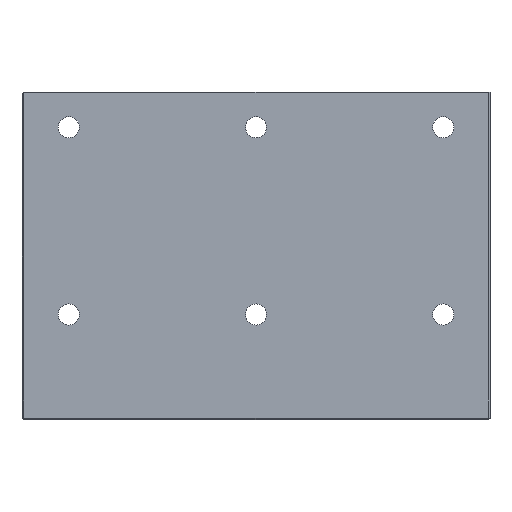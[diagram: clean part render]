
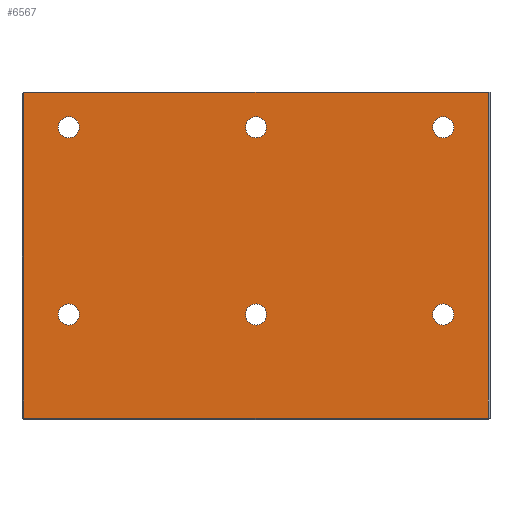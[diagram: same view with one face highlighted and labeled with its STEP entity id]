
A CAD part, front view. The second image highlights one B-rep face of the part: STEP entity #6567.
In plain terms, the highlighted planar face has unit normal (0, -1, 0).
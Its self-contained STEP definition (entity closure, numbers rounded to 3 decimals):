
#667=DIRECTION('',(0.,0.,-1.));
#668=VECTOR('',#667,278.5);
#669=CARTESIAN_POINT('',(198.5,0.,280.));
#670=LINE('',#669,#668);
#671=DIRECTION('',(-1.,0.,0.));
#672=VECTOR('',#671,397.);
#673=CARTESIAN_POINT('',(198.5,0.,1.5));
#674=LINE('',#673,#672);
#675=DIRECTION('',(0.,0.,1.));
#676=VECTOR('',#675,278.5);
#677=CARTESIAN_POINT('',(-198.5,0.,1.5));
#678=LINE('',#677,#676);
#679=DIRECTION('',(1.,0.,0.));
#680=VECTOR('',#679,397.);
#681=CARTESIAN_POINT('',(-198.5,0.,280.));
#682=LINE('',#681,#680);
#683=CARTESIAN_POINT('',(160.,0.,90.));
#684=DIRECTION('',(0.,1.,0.));
#685=DIRECTION('',(1.,0.,0.));
#686=AXIS2_PLACEMENT_3D('',#683,#684,#685);
#688=CARTESIAN_POINT('',(160.,0.,90.));
#689=DIRECTION('',(0.,1.,0.));
#690=DIRECTION('',(-1.,0.,0.));
#691=AXIS2_PLACEMENT_3D('',#688,#689,#690);
#693=CARTESIAN_POINT('',(160.,0.,250.));
#694=DIRECTION('',(0.,1.,0.));
#695=DIRECTION('',(1.,0.,0.));
#696=AXIS2_PLACEMENT_3D('',#693,#694,#695);
#698=CARTESIAN_POINT('',(160.,0.,250.));
#699=DIRECTION('',(0.,1.,0.));
#700=DIRECTION('',(-1.,0.,0.));
#701=AXIS2_PLACEMENT_3D('',#698,#699,#700);
#703=CARTESIAN_POINT('',(0.,0.,90.));
#704=DIRECTION('',(0.,1.,0.));
#705=DIRECTION('',(1.,0.,0.));
#706=AXIS2_PLACEMENT_3D('',#703,#704,#705);
#708=CARTESIAN_POINT('',(0.,0.,90.));
#709=DIRECTION('',(0.,1.,0.));
#710=DIRECTION('',(-1.,0.,0.));
#711=AXIS2_PLACEMENT_3D('',#708,#709,#710);
#713=CARTESIAN_POINT('',(0.,0.,250.));
#714=DIRECTION('',(0.,1.,0.));
#715=DIRECTION('',(1.,0.,0.));
#716=AXIS2_PLACEMENT_3D('',#713,#714,#715);
#718=CARTESIAN_POINT('',(0.,0.,250.));
#719=DIRECTION('',(0.,1.,0.));
#720=DIRECTION('',(-1.,0.,0.));
#721=AXIS2_PLACEMENT_3D('',#718,#719,#720);
#723=CARTESIAN_POINT('',(-160.,0.,90.));
#724=DIRECTION('',(0.,1.,0.));
#725=DIRECTION('',(1.,0.,0.));
#726=AXIS2_PLACEMENT_3D('',#723,#724,#725);
#728=CARTESIAN_POINT('',(-160.,0.,90.));
#729=DIRECTION('',(0.,1.,0.));
#730=DIRECTION('',(-1.,0.,0.));
#731=AXIS2_PLACEMENT_3D('',#728,#729,#730);
#733=CARTESIAN_POINT('',(-160.,0.,250.));
#734=DIRECTION('',(0.,1.,0.));
#735=DIRECTION('',(1.,0.,0.));
#736=AXIS2_PLACEMENT_3D('',#733,#734,#735);
#738=CARTESIAN_POINT('',(-160.,0.,250.));
#739=DIRECTION('',(0.,1.,0.));
#740=DIRECTION('',(-1.,0.,0.));
#741=AXIS2_PLACEMENT_3D('',#738,#739,#740);
#4703=CARTESIAN_POINT('',(198.5,0.,280.));
#4705=VERTEX_POINT('',#4703);
#4709=CARTESIAN_POINT('',(198.5,0.,1.5));
#4710=VERTEX_POINT('',#4709);
#4715=CARTESIAN_POINT('',(-198.5,0.,1.5));
#4716=VERTEX_POINT('',#4715);
#4729=CARTESIAN_POINT('',(-198.5,0.,280.));
#4730=VERTEX_POINT('',#4729);
#4803=CARTESIAN_POINT('',(169.,0.,90.));
#4804=CARTESIAN_POINT('',(151.,0.,90.));
#4805=VERTEX_POINT('',#4803);
#4806=VERTEX_POINT('',#4804);
#4819=CARTESIAN_POINT('',(169.,0.,250.));
#4820=CARTESIAN_POINT('',(151.,0.,250.));
#4821=VERTEX_POINT('',#4819);
#4822=VERTEX_POINT('',#4820);
#4835=CARTESIAN_POINT('',(9.,0.,90.));
#4836=VERTEX_POINT('',#4835);
#4837=CARTESIAN_POINT('',(-9.,0.,90.));
#4838=VERTEX_POINT('',#4837);
#4851=CARTESIAN_POINT('',(9.,0.,250.));
#4852=VERTEX_POINT('',#4851);
#4853=CARTESIAN_POINT('',(-9.,0.,250.));
#4854=VERTEX_POINT('',#4853);
#4867=CARTESIAN_POINT('',(-151.,0.,90.));
#4868=VERTEX_POINT('',#4867);
#4869=CARTESIAN_POINT('',(-169.,0.,90.));
#4870=VERTEX_POINT('',#4869);
#4883=CARTESIAN_POINT('',(-151.,0.,250.));
#4884=VERTEX_POINT('',#4883);
#4885=CARTESIAN_POINT('',(-169.,0.,250.));
#4886=VERTEX_POINT('',#4885);
#6520=CARTESIAN_POINT('',(-200.,0.,280.));
#6521=DIRECTION('',(0.,-1.,0.));
#6522=DIRECTION('',(0.,0.,-1.));
#6523=AXIS2_PLACEMENT_3D('',#6520,#6521,#6522);
#6524=PLANE('',#6523);
#6525=ORIENTED_EDGE('',*,*,#6515,.T.);
#6526=ORIENTED_EDGE('',*,*,#6280,.T.);
#6527=ORIENTED_EDGE('',*,*,#6297,.T.);
#6528=ORIENTED_EDGE('',*,*,#6482,.T.);
#6529=EDGE_LOOP('',(#6525,#6526,#6527,#6528));
#6530=FACE_OUTER_BOUND('',#6529,.F.);
#6532=ORIENTED_EDGE('',*,*,#6531,.F.);
#6534=ORIENTED_EDGE('',*,*,#6533,.F.);
#6535=EDGE_LOOP('',(#6532,#6534));
#6536=FACE_BOUND('',#6535,.F.);
#6538=ORIENTED_EDGE('',*,*,#6537,.F.);
#6540=ORIENTED_EDGE('',*,*,#6539,.F.);
#6541=EDGE_LOOP('',(#6538,#6540));
#6542=FACE_BOUND('',#6541,.F.);
#6544=ORIENTED_EDGE('',*,*,#6543,.F.);
#6546=ORIENTED_EDGE('',*,*,#6545,.F.);
#6547=EDGE_LOOP('',(#6544,#6546));
#6548=FACE_BOUND('',#6547,.F.);
#6550=ORIENTED_EDGE('',*,*,#6549,.F.);
#6552=ORIENTED_EDGE('',*,*,#6551,.F.);
#6553=EDGE_LOOP('',(#6550,#6552));
#6554=FACE_BOUND('',#6553,.F.);
#6556=ORIENTED_EDGE('',*,*,#6555,.F.);
#6558=ORIENTED_EDGE('',*,*,#6557,.F.);
#6559=EDGE_LOOP('',(#6556,#6558));
#6560=FACE_BOUND('',#6559,.F.);
#6562=ORIENTED_EDGE('',*,*,#6561,.F.);
#6564=ORIENTED_EDGE('',*,*,#6563,.F.);
#6565=EDGE_LOOP('',(#6562,#6564));
#6566=FACE_BOUND('',#6565,.F.);
#6567=ADVANCED_FACE('',(#6530,#6536,#6542,#6548,#6554,#6560,#6566),#6524,.T.);
#687=CIRCLE('',#686,9.);
#692=CIRCLE('',#691,9.);
#697=CIRCLE('',#696,9.);
#702=CIRCLE('',#701,9.);
#707=CIRCLE('',#706,9.);
#712=CIRCLE('',#711,9.);
#717=CIRCLE('',#716,9.);
#722=CIRCLE('',#721,9.);
#727=CIRCLE('',#726,9.);
#732=CIRCLE('',#731,9.);
#737=CIRCLE('',#736,9.);
#742=CIRCLE('',#741,9.);
#6280=EDGE_CURVE('',#4710,#4716,#674,.T.);
#6297=EDGE_CURVE('',#4716,#4730,#678,.T.);
#6482=EDGE_CURVE('',#4730,#4705,#682,.T.);
#6515=EDGE_CURVE('',#4705,#4710,#670,.T.);
#6531=EDGE_CURVE('',#4805,#4806,#687,.T.);
#6533=EDGE_CURVE('',#4806,#4805,#692,.T.);
#6537=EDGE_CURVE('',#4821,#4822,#697,.T.);
#6539=EDGE_CURVE('',#4822,#4821,#702,.T.);
#6543=EDGE_CURVE('',#4836,#4838,#707,.T.);
#6545=EDGE_CURVE('',#4838,#4836,#712,.T.);
#6549=EDGE_CURVE('',#4852,#4854,#717,.T.);
#6551=EDGE_CURVE('',#4854,#4852,#722,.T.);
#6555=EDGE_CURVE('',#4868,#4870,#727,.T.);
#6557=EDGE_CURVE('',#4870,#4868,#732,.T.);
#6561=EDGE_CURVE('',#4884,#4886,#737,.T.);
#6563=EDGE_CURVE('',#4886,#4884,#742,.T.);
